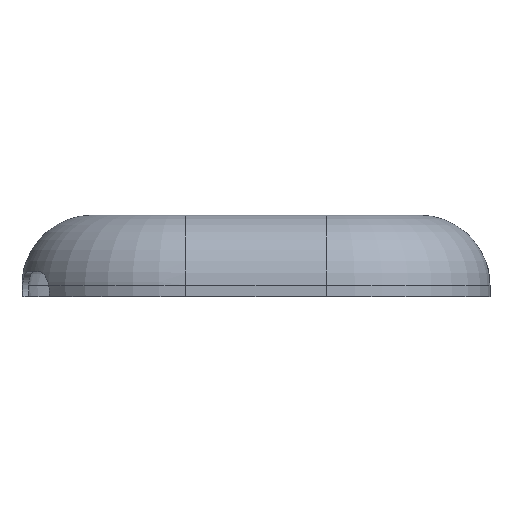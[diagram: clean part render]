
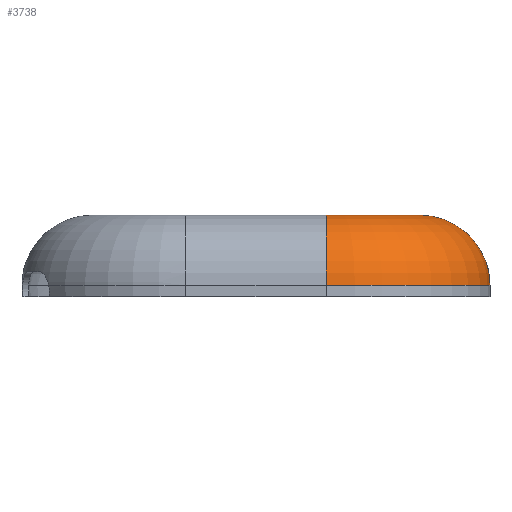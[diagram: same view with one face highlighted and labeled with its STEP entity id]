
A CAD part, front view. The second image highlights one B-rep face of the part: STEP entity #3738.
In plain terms, the highlighted toroidal (fillet/blend) face has major radius 16 mm and minor radius 12 mm.
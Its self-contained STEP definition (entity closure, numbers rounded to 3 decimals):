
#522 = PLANE('',#523);
#523 = AXIS2_PLACEMENT_3D('',#524,#525,#526);
#524 = CARTESIAN_POINT('',(-40.,-64.,28.5));
#525 = DIRECTION('',(0.,0.,1.));
#526 = DIRECTION('',(1.,0.,-0.));
#811 = CYLINDRICAL_SURFACE('',#812,12.);
#812 = AXIS2_PLACEMENT_3D('',#813,#814,#815);
#813 = CARTESIAN_POINT('',(12.,-52.,16.5));
#814 = DIRECTION('',(-1.,-0.,-0.));
#815 = DIRECTION('',(-0.,0.,1.));
#1241 = VERTEX_POINT('',#1242);
#1242 = CARTESIAN_POINT('',(12.,-52.,28.5));
#1263 = EDGE_CURVE('',#1264,#1241,#1266,.T.);
#1264 = VERTEX_POINT('',#1265);
#1265 = CARTESIAN_POINT('',(28.,-36.,28.5));
#1266 = SURFACE_CURVE('',#1267,(#1272,#1283),.PCURVE_S1.);
#1267 = CIRCLE('',#1268,16.);
#1268 = AXIS2_PLACEMENT_3D('',#1269,#1270,#1271);
#1269 = CARTESIAN_POINT('',(12.,-36.,28.5));
#1270 = DIRECTION('',(0.,0.,-1.));
#1271 = DIRECTION('',(1.,0.,0.));
#1272 = PCURVE('',#522,#1273);
#1273 = DEFINITIONAL_REPRESENTATION('',(#1274),#1282);
#1274 = ( BOUNDED_CURVE() B_SPLINE_CURVE(2,(#1275,#1276,#1277,#1278,
#1279,#1280,#1281),.UNSPECIFIED.,.T.,.F.) B_SPLINE_CURVE_WITH_KNOTS((1,2
    ,2,2,2,1),(-2.094,0.,2.094,4.189,
6.283,8.378),.UNSPECIFIED.) CURVE() 
GEOMETRIC_REPRESENTATION_ITEM() RATIONAL_B_SPLINE_CURVE((1.,0.5,1.,0.5,
1.,0.5,1.)) REPRESENTATION_ITEM('') );
#1275 = CARTESIAN_POINT('',(68.,28.));
#1276 = CARTESIAN_POINT('',(68.,0.287));
#1277 = CARTESIAN_POINT('',(44.,14.144));
#1278 = CARTESIAN_POINT('',(20.,28.));
#1279 = CARTESIAN_POINT('',(44.,41.856));
#1280 = CARTESIAN_POINT('',(68.,55.713));
#1281 = CARTESIAN_POINT('',(68.,28.));
#1282 = ( GEOMETRIC_REPRESENTATION_CONTEXT(2) 
PARAMETRIC_REPRESENTATION_CONTEXT() REPRESENTATION_CONTEXT('2D SPACE',''
  ) );
#1283 = PCURVE('',#1284,#1289);
#1284 = TOROIDAL_SURFACE('',#1285,16.,12.);
#1285 = AXIS2_PLACEMENT_3D('',#1286,#1287,#1288);
#1286 = CARTESIAN_POINT('',(12.,-36.,16.5));
#1287 = DIRECTION('',(-0.,-0.,-1.));
#1288 = DIRECTION('',(1.,0.,0.));
#1289 = DEFINITIONAL_REPRESENTATION('',(#1290),#1294);
#1290 = LINE('',#1291,#1292);
#1291 = CARTESIAN_POINT('',(0.,4.712));
#1292 = VECTOR('',#1293,1.);
#1293 = DIRECTION('',(1.,0.));
#1294 = ( GEOMETRIC_REPRESENTATION_CONTEXT(2) 
PARAMETRIC_REPRESENTATION_CONTEXT() REPRESENTATION_CONTEXT('2D SPACE',''
  ) );
#1312 = CYLINDRICAL_SURFACE('',#1313,12.);
#1313 = AXIS2_PLACEMENT_3D('',#1314,#1315,#1316);
#1314 = CARTESIAN_POINT('',(28.,36.,16.5));
#1315 = DIRECTION('',(-0.,-1.,-0.));
#1316 = DIRECTION('',(0.,0.,1.));
#2251 = VERTEX_POINT('',#2252);
#2252 = CARTESIAN_POINT('',(12.,-64.,16.5));
#2278 = EDGE_CURVE('',#1241,#2251,#2279,.T.);
#2279 = SURFACE_CURVE('',#2280,(#2285,#2291),.PCURVE_S1.);
#2280 = CIRCLE('',#2281,12.);
#2281 = AXIS2_PLACEMENT_3D('',#2282,#2283,#2284);
#2282 = CARTESIAN_POINT('',(12.,-52.,16.5));
#2283 = DIRECTION('',(1.,0.,0.));
#2284 = DIRECTION('',(0.,-1.,0.));
#2285 = PCURVE('',#811,#2286);
#2286 = DEFINITIONAL_REPRESENTATION('',(#2287),#2290);
#2287 = B_SPLINE_CURVE_WITH_KNOTS('',1,(#2288,#2289),.UNSPECIFIED.,.F.,
  .F.,(2,2),(4.712,6.283),.PIECEWISE_BEZIER_KNOTS.);
#2288 = CARTESIAN_POINT('',(6.283,0.));
#2289 = CARTESIAN_POINT('',(4.712,0.));
#2290 = ( GEOMETRIC_REPRESENTATION_CONTEXT(2) 
PARAMETRIC_REPRESENTATION_CONTEXT() REPRESENTATION_CONTEXT('2D SPACE',''
  ) );
#2291 = PCURVE('',#1284,#2292);
#2292 = DEFINITIONAL_REPRESENTATION('',(#2293),#2296);
#2293 = B_SPLINE_CURVE_WITH_KNOTS('',1,(#2294,#2295),.UNSPECIFIED.,.F.,
  .F.,(2,2),(4.712,6.283),.PIECEWISE_BEZIER_KNOTS.);
#2294 = CARTESIAN_POINT('',(1.571,4.712));
#2295 = CARTESIAN_POINT('',(1.571,6.283));
#2296 = ( GEOMETRIC_REPRESENTATION_CONTEXT(2) 
PARAMETRIC_REPRESENTATION_CONTEXT() REPRESENTATION_CONTEXT('2D SPACE',''
  ) );
#3223 = EDGE_CURVE('',#1264,#3224,#3226,.T.);
#3224 = VERTEX_POINT('',#3225);
#3225 = CARTESIAN_POINT('',(40.,-36.,16.5));
#3226 = SURFACE_CURVE('',#3227,(#3232,#3238),.PCURVE_S1.);
#3227 = CIRCLE('',#3228,12.);
#3228 = AXIS2_PLACEMENT_3D('',#3229,#3230,#3231);
#3229 = CARTESIAN_POINT('',(28.,-36.,16.5));
#3230 = DIRECTION('',(0.,1.,0.));
#3231 = DIRECTION('',(0.,-0.,1.));
#3232 = PCURVE('',#1312,#3233);
#3233 = DEFINITIONAL_REPRESENTATION('',(#3234),#3237);
#3234 = B_SPLINE_CURVE_WITH_KNOTS('',1,(#3235,#3236),.UNSPECIFIED.,.F.,
  .F.,(2,2),(0.,1.571),.PIECEWISE_BEZIER_KNOTS.);
#3235 = CARTESIAN_POINT('',(6.283,72.));
#3236 = CARTESIAN_POINT('',(4.712,72.));
#3237 = ( GEOMETRIC_REPRESENTATION_CONTEXT(2) 
PARAMETRIC_REPRESENTATION_CONTEXT() REPRESENTATION_CONTEXT('2D SPACE',''
  ) );
#3238 = PCURVE('',#1284,#3239);
#3239 = DEFINITIONAL_REPRESENTATION('',(#3240),#3243);
#3240 = B_SPLINE_CURVE_WITH_KNOTS('',1,(#3241,#3242),.UNSPECIFIED.,.F.,
  .F.,(2,2),(0.,1.571),.PIECEWISE_BEZIER_KNOTS.);
#3241 = CARTESIAN_POINT('',(0.,4.712));
#3242 = CARTESIAN_POINT('',(0.,6.283));
#3243 = ( GEOMETRIC_REPRESENTATION_CONTEXT(2) 
PARAMETRIC_REPRESENTATION_CONTEXT() REPRESENTATION_CONTEXT('2D SPACE',''
  ) );
#3738 = ADVANCED_FACE('',(#3739),#1284,.T.);
#3739 = FACE_BOUND('',#3740,.T.);
#3740 = EDGE_LOOP('',(#3741,#3742,#3743,#3744));
#3741 = ORIENTED_EDGE('',*,*,#3223,.F.);
#3742 = ORIENTED_EDGE('',*,*,#1263,.T.);
#3743 = ORIENTED_EDGE('',*,*,#2278,.T.);
#3744 = ORIENTED_EDGE('',*,*,#3745,.F.);
#3745 = EDGE_CURVE('',#3224,#2251,#3746,.T.);
#3746 = SURFACE_CURVE('',#3747,(#3752,#3759),.PCURVE_S1.);
#3747 = CIRCLE('',#3748,28.);
#3748 = AXIS2_PLACEMENT_3D('',#3749,#3750,#3751);
#3749 = CARTESIAN_POINT('',(12.,-36.,16.5));
#3750 = DIRECTION('',(0.,0.,-1.));
#3751 = DIRECTION('',(1.,0.,0.));
#3752 = PCURVE('',#1284,#3753);
#3753 = DEFINITIONAL_REPRESENTATION('',(#3754),#3758);
#3754 = LINE('',#3755,#3756);
#3755 = CARTESIAN_POINT('',(0.,6.283));
#3756 = VECTOR('',#3757,1.);
#3757 = DIRECTION('',(1.,0.));
#3758 = ( GEOMETRIC_REPRESENTATION_CONTEXT(2) 
PARAMETRIC_REPRESENTATION_CONTEXT() REPRESENTATION_CONTEXT('2D SPACE',''
  ) );
#3759 = PCURVE('',#3760,#3765);
#3760 = CYLINDRICAL_SURFACE('',#3761,28.);
#3761 = AXIS2_PLACEMENT_3D('',#3762,#3763,#3764);
#3762 = CARTESIAN_POINT('',(12.,-36.,0.));
#3763 = DIRECTION('',(0.,0.,1.));
#3764 = DIRECTION('',(1.,0.,-0.));
#3765 = DEFINITIONAL_REPRESENTATION('',(#3766),#3770);
#3766 = LINE('',#3767,#3768);
#3767 = CARTESIAN_POINT('',(6.283,16.5));
#3768 = VECTOR('',#3769,1.);
#3769 = DIRECTION('',(-1.,0.));
#3770 = ( GEOMETRIC_REPRESENTATION_CONTEXT(2) 
PARAMETRIC_REPRESENTATION_CONTEXT() REPRESENTATION_CONTEXT('2D SPACE',''
  ) );
